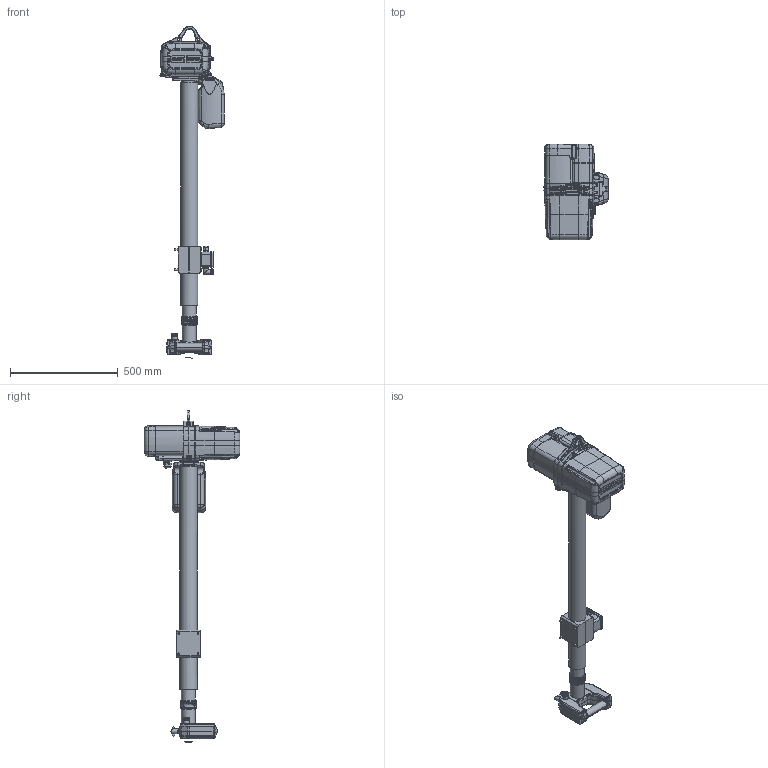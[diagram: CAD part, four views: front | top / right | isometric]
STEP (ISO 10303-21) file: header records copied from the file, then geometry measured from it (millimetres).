
FILE_DESCRIPTION(/* description */ (''),/* implementation_level */ '2;1');
FILE_NAME(/* name */ 'C:\Users\gistke\Desktop\Light Dateien\9511.9227.L1.stp',/* time_stamp */ '2019-05-22T15:41:07+02:00',/* author */ ('gistke'),/* organization */ (''),/* preprocessor_version */ 'ST-DEVELOPER v17.2',/* originating_system */ 'Autodesk Inventor 2019',/* authorisation */ '');
FILE_SCHEMA (('AUTOMOTIVE_DESIGN { 1 0 10303 214 3 1 1 }'));
Length unit declared in the file: millimetre
Products named in the file (1): 9511.9227.L
Bounding box: 298.79 x 444 x 1543.7 mm (x, y, z)
Volume: 26805388 mm3; surface area: 1139524.8 mm2
Topology: 2 solids, 8 shells, 2922 faces, 7296 edges, 4379 vertices
Faces by surface type: plane 964, cylinder 733, bspline 657, torus 349, cone 190, sphere 29
Full cylindrical faces by diameter (mm): 4.917 x1, 5.5 x2, 6 x4, 7 x4, 8 x15, 8.2 x4, 8.5 x4, 8.8 x2, 10.5 x6, 11.63 x4, 13 x1, 16.006 x2, 20 x2, 22 x4, 24 x2, 24.006 x2, 25 x2, 26 x1, 29 x2, 30 x1, 50 x2, 65 x2, 65.5 x2, 75 x2, 76.1 x1, 80 x1
Entity records: 126901 total; most frequent: CARTESIAN_POINT 57520, ORIENTED_EDGE 14436, DIRECTION 13527, EDGE_CURVE 7218, AXIS2_PLACEMENT_3D 5406, VERTEX_POINT 4379, EDGE_LOOP 3055, FACE_OUTER_BOUND 2922
